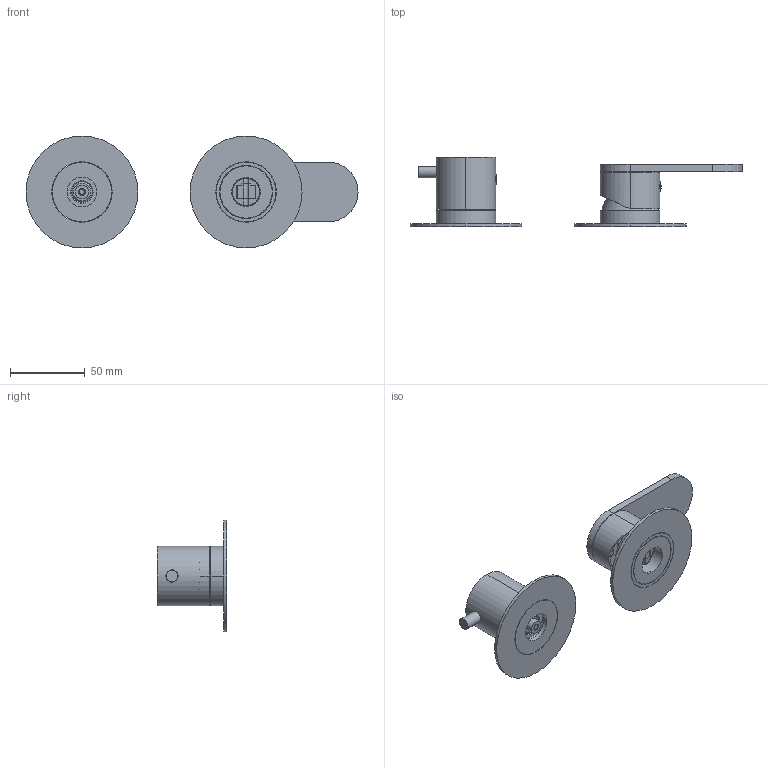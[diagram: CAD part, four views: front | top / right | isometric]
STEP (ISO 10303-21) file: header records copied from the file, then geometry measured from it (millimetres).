
FILE_DESCRIPTION((''),'2;1');
FILE_NAME('79553V221_SW0001','2026-10-07T16:36:38',('carloff'),(''),'CREO PARAMETRIC BY PTC INC, 2025443','CREO PARAMETRIC BY PTC INC, 2025443','');
FILE_SCHEMA(('CONFIG_CONTROL_DESIGN'));
Length unit declared in the file: millimetre
Products named in the file (1): 79553V221_SW0001
Bounding box: 222.5 x 46.8 x 75 mm (x, y, z)
Volume: 112405.6 mm3; surface area: 57220.3 mm2
Topology: 8 solids, 8 shells, 633 faces, 1720 edges, 1123 vertices
Faces by surface type: cylinder 250, plane 222, cone 64, torus 62, bspline 31, sphere 4
Entity records: 33899 total; most frequent: CARTESIAN_POINT 18023, ORIENTED_EDGE 3424, DIRECTION 3204, EDGE_CURVE 1712, AXIS2_PLACEMENT_3D 1189, VERTEX_POINT 1123, VECTOR 826, LINE 826
